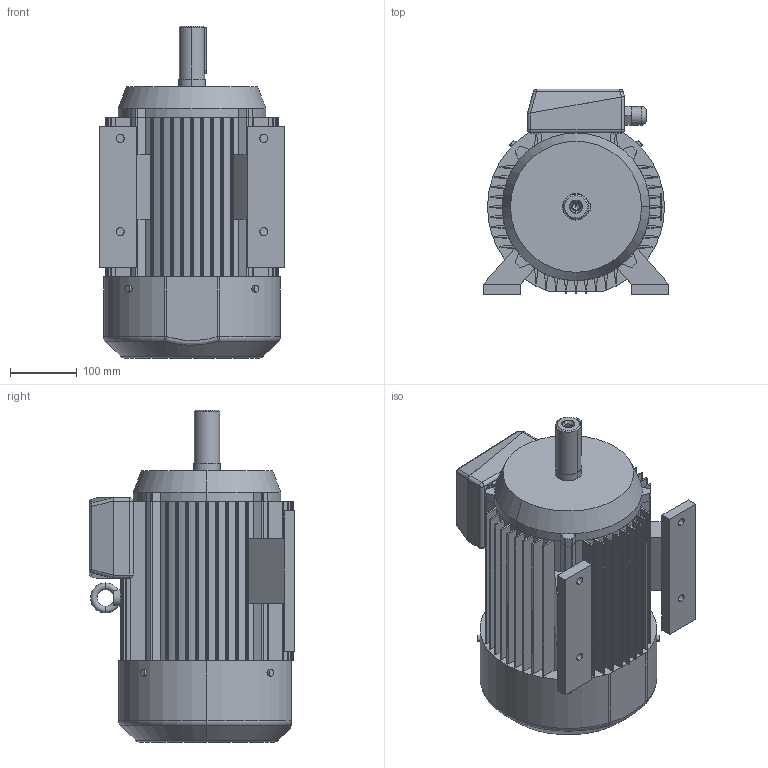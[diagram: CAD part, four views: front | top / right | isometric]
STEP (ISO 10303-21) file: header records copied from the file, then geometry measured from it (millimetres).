
FILE_DESCRIPTION (( 'STEP AP203' ), '1' );
FILE_NAME ('Sg 132S-2B-B3.STEP', '2010-02-09T12:36:56', ( 'INDUKTA' ), ( 'CANTONI MOTOR' ), 'SwSTEP 2.0', 'SolidWorks 2003064', '' );
FILE_SCHEMA (( 'CONFIG_CONTROL_DESIGN' ));
Length unit declared in the file: millimetre
Products named in the file (1): Sg 132S-2B-B3
Bounding box: 278 x 309 x 499 mm (x, y, z)
Volume: 20124018.9 mm3; surface area: 1060231.8 mm2
Topology: 14 solids, 14 shells, 512 faces, 1362 edges, 871 vertices
Faces by surface type: plane 250, cylinder 182, bspline 43, cone 14, torus 13, sphere 10
Entity records: 19498 total; most frequent: CARTESIAN_POINT 6786, ORIENTED_EDGE 2700, DIRECTION 2566, EDGE_CURVE 1350, VERTEX_POINT 871, AXIS2_PLACEMENT_3D 867, VECTOR 832, LINE 832
